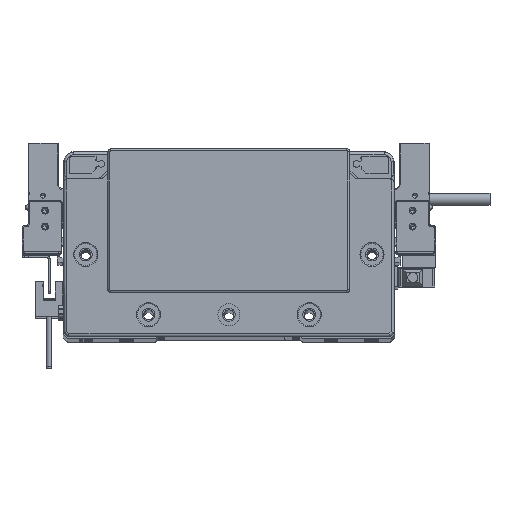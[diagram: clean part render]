
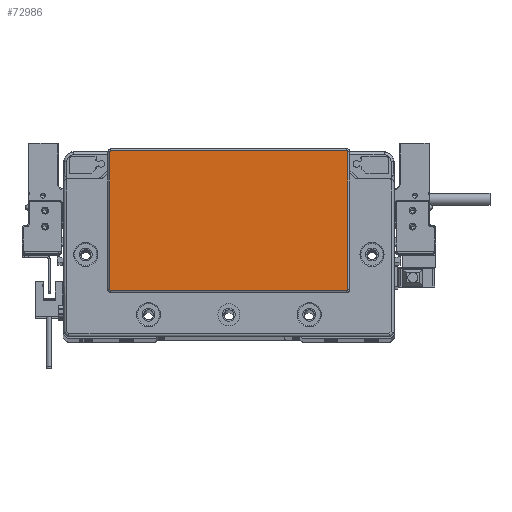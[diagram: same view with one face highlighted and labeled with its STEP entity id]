
A CAD part, top view. The second image highlights one B-rep face of the part: STEP entity #72986.
In plain terms, the highlighted planar face has unit normal (0, 0, 1) as drawn and (0, 0, -1) by its records, which use the part's own axes.
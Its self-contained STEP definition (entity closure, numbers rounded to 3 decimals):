
#222 = DIRECTION ( 'NONE',  ( -1., 0., 0. ) ) ;
#868 = DIRECTION ( 'NONE',  ( -1., 0., 0. ) ) ;
#1094 = DIRECTION ( 'NONE',  ( 0., 0., -1. ) ) ;
#1686 = VECTOR ( 'NONE', #30194, 1000. ) ;
#1956 = CARTESIAN_POINT ( 'NONE',  ( -58.75, -23.8, -2. ) ) ;
#2139 = FACE_OUTER_BOUND ( 'NONE', #59537, .T. ) ;
#2441 = CARTESIAN_POINT ( 'NONE',  ( 58.75, 45.8, -2. ) ) ;
#5074 = CARTESIAN_POINT ( 'NONE',  ( 59.25, -23.3, -2. ) ) ;
#7760 = ORIENTED_EDGE ( 'NONE', *, *, #89867, .T. ) ;
#9631 = ORIENTED_EDGE ( 'NONE', *, *, #62746, .T. ) ;
#10426 = ORIENTED_EDGE ( 'NONE', *, *, #70735, .T. ) ;
#10438 = EDGE_CURVE ( 'NONE', #63132, #20277, #66320, .T. ) ;
#11045 = VECTOR ( 'NONE', #44732, 1000. ) ;
#14017 = DIRECTION ( 'NONE',  ( 0., 0., -1. ) ) ;
#14083 = CARTESIAN_POINT ( 'NONE',  ( 59.25, -23.3, -2. ) ) ;
#19035 = CARTESIAN_POINT ( 'NONE',  ( -59.25, 45.3, -2. ) ) ;
#20277 = VERTEX_POINT ( 'NONE', #71262 ) ;
#23312 = CARTESIAN_POINT ( 'NONE',  ( -59.25, 45.3, -2. ) ) ;
#23536 = CARTESIAN_POINT ( 'NONE',  ( 59.25, 45.3, -2. ) ) ;
#27194 = LINE ( 'NONE', #19035, #49560 ) ;
#28121 = CARTESIAN_POINT ( 'NONE',  ( 0., 0., -2. ) ) ;
#28160 = CARTESIAN_POINT ( 'NONE',  ( -59.25, -23.3, -2. ) ) ;
#28615 = DIRECTION ( 'NONE',  ( 0., 0., -1. ) ) ;
#30194 = DIRECTION ( 'NONE',  ( 1., 0., 0. ) ) ;
#31500 = ORIENTED_EDGE ( 'NONE', *, *, #50875, .T. ) ;
#32899 = VERTEX_POINT ( 'NONE', #37062 ) ;
#33927 = CARTESIAN_POINT ( 'NONE',  ( -58.75, -23.3, -2. ) ) ;
#34680 = VERTEX_POINT ( 'NONE', #23536 ) ;
#35009 = CIRCLE ( 'NONE', #36414, 0.5 ) ;
#36414 = AXIS2_PLACEMENT_3D ( 'NONE', #88280, #54546, #75926 ) ;
#37062 = CARTESIAN_POINT ( 'NONE',  ( -58.75, -23.8, -2. ) ) ;
#38188 = CIRCLE ( 'NONE', #45484, 0.5 ) ;
#39473 = VERTEX_POINT ( 'NONE', #60567 ) ;
#43856 = LINE ( 'NONE', #1956, #11045 ) ;
#44732 = DIRECTION ( 'NONE',  ( -1., 0., 0. ) ) ;
#45484 = AXIS2_PLACEMENT_3D ( 'NONE', #75995, #55960, #55059 ) ;
#46146 = ORIENTED_EDGE ( 'NONE', *, *, #69572, .T. ) ;
#47442 = CARTESIAN_POINT ( 'NONE',  ( -58.75, 45.8, -2. ) ) ;
#48620 = EDGE_CURVE ( 'NONE', #32899, #87446, #55505, .T. ) ;
#49560 = VECTOR ( 'NONE', #69139, 1000. ) ;
#50461 = PLANE ( 'NONE',  #89354 ) ;
#50561 = ORIENTED_EDGE ( 'NONE', *, *, #10438, .T. ) ;
#50875 = EDGE_CURVE ( 'NONE', #39473, #34680, #38188, .T. ) ;
#54546 = DIRECTION ( 'NONE',  ( 0., 0., -1. ) ) ;
#55059 = DIRECTION ( 'NONE',  ( -1., 0., 0. ) ) ;
#55505 = CIRCLE ( 'NONE', #78749, 0.5 ) ;
#55960 = DIRECTION ( 'NONE',  ( 0., 0., -1. ) ) ;
#59537 = EDGE_LOOP ( 'NONE', ( #46146, #50561, #9631, #60366, #7760, #81424, #10426, #31500 ) ) ;
#60366 = ORIENTED_EDGE ( 'NONE', *, *, #48620, .T. ) ;
#60567 = CARTESIAN_POINT ( 'NONE',  ( 58.75, 45.8, -2. ) ) ;
#61335 = VERTEX_POINT ( 'NONE', #47442 ) ;
#62746 = EDGE_CURVE ( 'NONE', #20277, #32899, #43856, .T. ) ;
#63132 = VERTEX_POINT ( 'NONE', #5074 ) ;
#64195 = LINE ( 'NONE', #14083, #83047 ) ;
#66320 = CIRCLE ( 'NONE', #82349, 0.5 ) ;
#69139 = DIRECTION ( 'NONE',  ( 0., 1., 0. ) ) ;
#69572 = EDGE_CURVE ( 'NONE', #34680, #63132, #64195, .T. ) ;
#69617 = DIRECTION ( 'NONE',  ( -1., 0., 0. ) ) ;
#70735 = EDGE_CURVE ( 'NONE', #61335, #39473, #70805, .T. ) ;
#70805 = LINE ( 'NONE', #2441, #1686 ) ;
#71262 = CARTESIAN_POINT ( 'NONE',  ( 58.75, -23.8, -2. ) ) ;
#72986 = ADVANCED_FACE ( 'NONE', ( #2139 ), #50461, .T. ) ;
#75926 = DIRECTION ( 'NONE',  ( -1., 0., 0. ) ) ;
#75995 = CARTESIAN_POINT ( 'NONE',  ( 58.75, 45.3, -2. ) ) ;
#78749 = AXIS2_PLACEMENT_3D ( 'NONE', #33927, #1094, #222 ) ;
#81424 = ORIENTED_EDGE ( 'NONE', *, *, #82529, .T. ) ;
#82349 = AXIS2_PLACEMENT_3D ( 'NONE', #82471, #28615, #868 ) ;
#82471 = CARTESIAN_POINT ( 'NONE',  ( 58.75, -23.3, -2. ) ) ;
#82529 = EDGE_CURVE ( 'NONE', #86806, #61335, #35009, .T. ) ;
#83047 = VECTOR ( 'NONE', #85155, 1000. ) ;
#85155 = DIRECTION ( 'NONE',  ( 0., -1., 0. ) ) ;
#86806 = VERTEX_POINT ( 'NONE', #23312 ) ;
#87446 = VERTEX_POINT ( 'NONE', #28160 ) ;
#88280 = CARTESIAN_POINT ( 'NONE',  ( -58.75, 45.3, -2. ) ) ;
#89354 = AXIS2_PLACEMENT_3D ( 'NONE', #28121, #14017, #69617 ) ;
#89867 = EDGE_CURVE ( 'NONE', #87446, #86806, #27194, .T. ) ;
